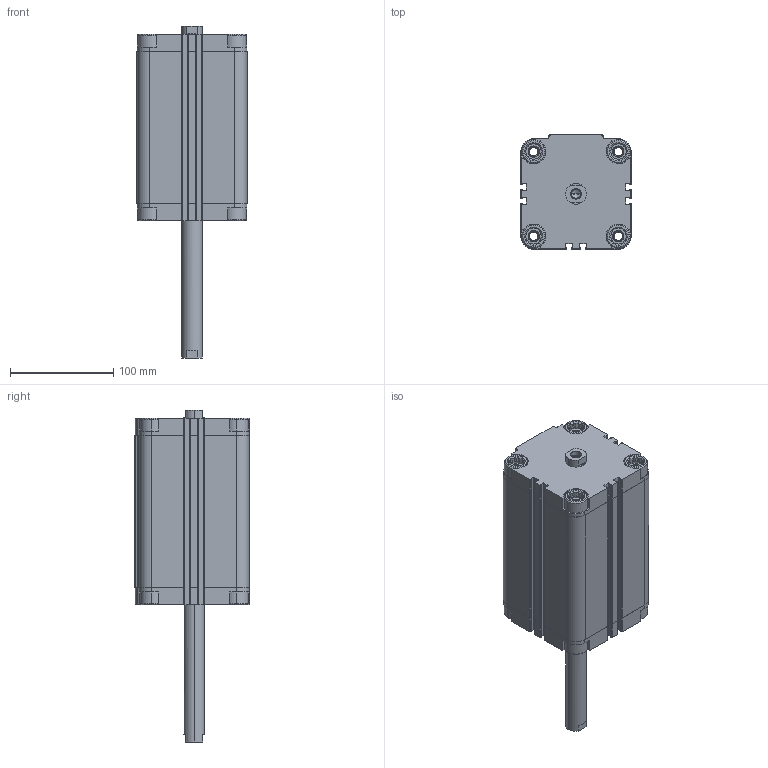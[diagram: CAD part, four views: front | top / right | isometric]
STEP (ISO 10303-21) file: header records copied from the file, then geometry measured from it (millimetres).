
FILE_DESCRIPTION (( 'STEP AP203' ), '1' );
FILE_NAME ('CDVU80-125F-P.STEP', '2020-07-24T18:41:14', ( '' ), ( '' ), 'SwSTEP 2.0', 'SolidWorks 2019', '' );
FILE_SCHEMA (( 'CONFIG_CONTROL_DESIGN' ));
Length unit declared in the file: millimetre
Products named in the file (1): CDVU80-125F-P
Bounding box: 107 x 111 x 322 mm (x, y, z)
Volume: 1376290 mm3; surface area: 229980.2 mm2
Topology: 2 solids, 2 shells, 670 faces, 1812 edges, 1188 vertices
Faces by surface type: plane 394, cylinder 212, cone 64
Entity records: 21267 total; most frequent: CARTESIAN_POINT 4239, ORIENTED_EDGE 3608, DIRECTION 3458, EDGE_CURVE 1804, VERTEX_POINT 1188, AXIS2_PLACEMENT_3D 1175, LINE 1108, VECTOR 1108
